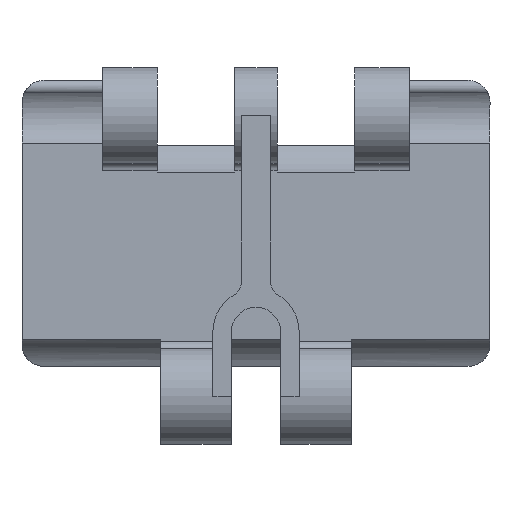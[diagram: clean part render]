
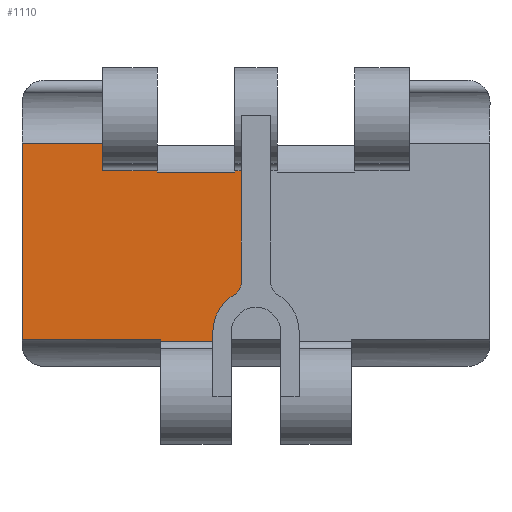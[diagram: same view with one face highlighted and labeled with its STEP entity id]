
A CAD part, front view. The second image highlights one B-rep face of the part: STEP entity #1110.
In plain terms, the highlighted planar face has unit normal (0, -1, 0).
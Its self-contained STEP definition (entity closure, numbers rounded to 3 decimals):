
#16 = CARTESIAN_POINT ( 'NONE',  ( -13.4, 3., -7.5 ) ) ;
#17 = LINE ( 'NONE', #116, #77 ) ;
#18 = CARTESIAN_POINT ( 'NONE',  ( -12.95, 3., -30.417 ) ) ;
#66 = DIRECTION ( 'NONE',  ( 0., 0., -1. ) ) ;
#67 = VECTOR ( 'NONE', #66, 1000. ) ;
#72 = DIRECTION ( 'NONE',  ( -1., 0., 0. ) ) ;
#74 = DIRECTION ( 'NONE',  ( -1., 0., 0. ) ) ;
#75 = VECTOR ( 'NONE', #74, 1000. ) ;
#76 = CARTESIAN_POINT ( 'NONE',  ( 12.95, 3., -30.6 ) ) ;
#77 = VECTOR ( 'NONE', #72, 1000. ) ;
#78 = LINE ( 'NONE', #76, #75 ) ;
#79 = DIRECTION ( 'NONE',  ( -1., 0., 0. ) ) ;
#111 = VECTOR ( 'NONE', #79, 1000. ) ;
#112 = CARTESIAN_POINT ( 'NONE',  ( 31.75, 3., -3.747 ) ) ;
#114 = CARTESIAN_POINT ( 'NONE',  ( -12.95, 3., -30.417 ) ) ;
#115 = LINE ( 'NONE', #114, #67 ) ;
#116 = CARTESIAN_POINT ( 'NONE',  ( 31.75, 3., -30.417 ) ) ;
#139 = LINE ( 'NONE', #112, #111 ) ;
#140 = DIRECTION ( 'NONE',  ( 0., 0., -1. ) ) ;
#141 = VECTOR ( 'NONE', #140, 1000. ) ;
#142 = CARTESIAN_POINT ( 'NONE',  ( -31.75, 3., -3.747 ) ) ;
#143 = LINE ( 'NONE', #142, #141 ) ;
#144 = CARTESIAN_POINT ( 'NONE',  ( -31.75, 3., -3.747 ) ) ;
#439 = DIRECTION ( 'NONE',  ( -1., 0., 0. ) ) ;
#442 = CARTESIAN_POINT ( 'NONE',  ( 20.8, 3., -7.5 ) ) ;
#443 = LINE ( 'NONE', #442, #448 ) ;
#444 = DIRECTION ( 'NONE',  ( 0., 0., -1. ) ) ;
#445 = VECTOR ( 'NONE', #444, 1000. ) ;
#446 = CARTESIAN_POINT ( 'NONE',  ( -13.4, 3., -7.5 ) ) ;
#447 = CARTESIAN_POINT ( 'NONE',  ( -20.8, 3., -7.5 ) ) ;
#448 = VECTOR ( 'NONE', #439, 1000. ) ;
#449 = CARTESIAN_POINT ( 'NONE',  ( -31.75, 3., -30.417 ) ) ;
#450 = DIRECTION ( 'NONE',  ( -1., 0., 0. ) ) ;
#451 = VECTOR ( 'NONE', #450, 1000. ) ;
#468 = LINE ( 'NONE', #446, #445 ) ;
#469 = CARTESIAN_POINT ( 'NONE',  ( -2.9, 3., -7.683 ) ) ;
#497 = CARTESIAN_POINT ( 'NONE',  ( -13.4, 3., -7.683 ) ) ;
#506 = LINE ( 'NONE', #469, #451 ) ;
#512 = CARTESIAN_POINT ( 'NONE',  ( -20.8, 3., -3.747 ) ) ;
#698 = DIRECTION ( 'NONE',  ( -1., 0., 0. ) ) ;
#699 = VECTOR ( 'NONE', #698, 1000. ) ;
#700 = CARTESIAN_POINT ( 'NONE',  ( 20.8, 3., -7.5 ) ) ;
#707 = LINE ( 'NONE', #700, #699 ) ;
#708 = CARTESIAN_POINT ( 'NONE',  ( -2.9, 3., -7.5 ) ) ;
#1109 = ORIENTED_EDGE ( 'NONE', *, *, #2243, .T. ) ;
#1110 = ADVANCED_FACE ( 'NONE', ( #2659 ), #2585, .F. ) ;
#1111 = ORIENTED_EDGE ( 'NONE', *, *, #1159, .T. ) ;
#1112 = ORIENTED_EDGE ( 'NONE', *, *, #1113, .T. ) ;
#1113 = EDGE_CURVE ( 'NONE', #1130, #1162, #2714, .T. ) ;
#1114 = VERTEX_POINT ( 'NONE', #2521 ) ;
#1115 = ORIENTED_EDGE ( 'NONE', *, *, #1116, .T. ) ;
#1116 = EDGE_CURVE ( 'NONE', #1125, #1158, #2525, .T. ) ;
#1117 = EDGE_CURVE ( 'NONE', #1417, #1420, #2512, .T. ) ;
#1118 = ORIENTED_EDGE ( 'NONE', *, *, #1117, .F. ) ;
#1119 = EDGE_CURVE ( 'NONE', #2241, #1163, #2508, .T. ) ;
#1120 = ORIENTED_EDGE ( 'NONE', *, *, #1425, .T. ) ;
#1125 = VERTEX_POINT ( 'NONE', #2608 ) ;
#1130 = VERTEX_POINT ( 'NONE', #2615 ) ;
#1155 = ORIENTED_EDGE ( 'NONE', *, *, #1161, .T. ) ;
#1158 = VERTEX_POINT ( 'NONE', #1952 ) ;
#1159 = EDGE_CURVE ( 'NONE', #1162, #1125, #1946, .T. ) ;
#1161 = EDGE_CURVE ( 'NONE', #1158, #2179, #1878, .T. ) ;
#1162 = VERTEX_POINT ( 'NONE', #1893 ) ;
#1163 = VERTEX_POINT ( 'NONE', #1877 ) ;
#1164 = EDGE_LOOP ( 'NONE', ( #1112, #1111, #1115, #1155, #1109, #1415, #1418, #1422, #1413, #1118, #1430, #1120, #1436, #1432, #1166 ) ) ;
#1166 = ORIENTED_EDGE ( 'NONE', *, *, #1429, .F. ) ;
#1413 = ORIENTED_EDGE ( 'NONE', *, *, #1423, .T. ) ;
#1414 = VERTEX_POINT ( 'NONE', #497 ) ;
#1415 = ORIENTED_EDGE ( 'NONE', *, *, #1119, .T. ) ;
#1416 = EDGE_CURVE ( 'NONE', #1163, #1414, #506, .T. ) ;
#1417 = VERTEX_POINT ( 'NONE', #512 ) ;
#1418 = ORIENTED_EDGE ( 'NONE', *, *, #1416, .T. ) ;
#1419 = EDGE_CURVE ( 'NONE', #1426, #1414, #468, .T. ) ;
#1420 = VERTEX_POINT ( 'NONE', #447 ) ;
#1421 = VERTEX_POINT ( 'NONE', #449 ) ;
#1422 = ORIENTED_EDGE ( 'NONE', *, *, #1419, .F. ) ;
#1423 = EDGE_CURVE ( 'NONE', #1426, #1420, #443, .T. ) ;
#1424 = VERTEX_POINT ( 'NONE', #18 ) ;
#1425 = EDGE_CURVE ( 'NONE', #1427, #1421, #143, .T. ) ;
#1426 = VERTEX_POINT ( 'NONE', #16 ) ;
#1427 = VERTEX_POINT ( 'NONE', #144 ) ;
#1428 = EDGE_CURVE ( 'NONE', #1417, #1427, #139, .T. ) ;
#1429 = EDGE_CURVE ( 'NONE', #1130, #1114, #78, .T. ) ;
#1430 = ORIENTED_EDGE ( 'NONE', *, *, #1428, .T. ) ;
#1432 = ORIENTED_EDGE ( 'NONE', *, *, #1437, .T. ) ;
#1433 = EDGE_CURVE ( 'NONE', #1424, #1421, #17, .T. ) ;
#1436 = ORIENTED_EDGE ( 'NONE', *, *, #1433, .F. ) ;
#1437 = EDGE_CURVE ( 'NONE', #1424, #1114, #115, .T. ) ;
#1874 = DIRECTION ( 'NONE',  ( 0., 0., 1. ) ) ;
#1875 = VECTOR ( 'NONE', #1874, 1000. ) ;
#1876 = CARTESIAN_POINT ( 'NONE',  ( -2., 3., 0. ) ) ;
#1877 = CARTESIAN_POINT ( 'NONE',  ( -2.9, 3., -7.683 ) ) ;
#1878 = LINE ( 'NONE', #1876, #1875 ) ;
#1883 = DIRECTION ( 'NONE',  ( 0., 0., 1. ) ) ;
#1884 = DIRECTION ( 'NONE',  ( 0., 1., 0. ) ) ;
#1885 = CARTESIAN_POINT ( 'NONE',  ( 0., 3., -29.35 ) ) ;
#1893 = CARTESIAN_POINT ( 'NONE',  ( -5.85, 3., -29.35 ) ) ;
#1945 = AXIS2_PLACEMENT_3D ( 'NONE', #1885, #1884, #1883 ) ;
#1946 = CIRCLE ( 'NONE', #1945, 5.85 ) ;
#1952 = CARTESIAN_POINT ( 'NONE',  ( -2., 3., -22.596 ) ) ;
#2179 = VERTEX_POINT ( 'NONE', #2774 ) ;
#2241 = VERTEX_POINT ( 'NONE', #708 ) ;
#2243 = EDGE_CURVE ( 'NONE', #2179, #2241, #707, .T. ) ;
#2505 = DIRECTION ( 'NONE',  ( 0., 0., -1. ) ) ;
#2506 = VECTOR ( 'NONE', #2505, 1000. ) ;
#2507 = CARTESIAN_POINT ( 'NONE',  ( -2.9, 3., -7.5 ) ) ;
#2508 = LINE ( 'NONE', #2507, #2506 ) ;
#2509 = DIRECTION ( 'NONE',  ( 0., 0., -1. ) ) ;
#2510 = VECTOR ( 'NONE', #2509, 1000. ) ;
#2511 = CARTESIAN_POINT ( 'NONE',  ( -20.8, 3., -3.747 ) ) ;
#2512 = LINE ( 'NONE', #2511, #2510 ) ;
#2515 = DIRECTION ( 'NONE',  ( 0., 0., 1. ) ) ;
#2516 = DIRECTION ( 'NONE',  ( 0., -1., 0. ) ) ;
#2517 = CARTESIAN_POINT ( 'NONE',  ( -4., 3., -22.596 ) ) ;
#2518 = AXIS2_PLACEMENT_3D ( 'NONE', #2517, #2516, #2515 ) ;
#2519 = DIRECTION ( 'NONE',  ( 0., 0., 1. ) ) ;
#2520 = VECTOR ( 'NONE', #2519, 1000. ) ;
#2521 = CARTESIAN_POINT ( 'NONE',  ( -12.95, 3., -30.6 ) ) ;
#2522 = CARTESIAN_POINT ( 'NONE',  ( -5.85, 3., -38.1 ) ) ;
#2523 = DIRECTION ( 'NONE',  ( 0., 0., 1. ) ) ;
#2524 = DIRECTION ( 'NONE',  ( 0., 1., 0. ) ) ;
#2525 = CIRCLE ( 'NONE', #2518, 2. ) ;
#2529 = AXIS2_PLACEMENT_3D ( 'NONE', #2713, #2524, #2523 ) ;
#2585 = PLANE ( 'NONE',  #2529 ) ;
#2608 = CARTESIAN_POINT ( 'NONE',  ( -2.981, 3., -24.316 ) ) ;
#2615 = CARTESIAN_POINT ( 'NONE',  ( -5.85, 3., -30.6 ) ) ;
#2659 = FACE_OUTER_BOUND ( 'NONE', #1164, .T. ) ;
#2713 = CARTESIAN_POINT ( 'NONE',  ( 31.75, 3., -3.747 ) ) ;
#2714 = LINE ( 'NONE', #2522, #2520 ) ;
#2774 = CARTESIAN_POINT ( 'NONE',  ( -2., 3., -7.5 ) ) ;
